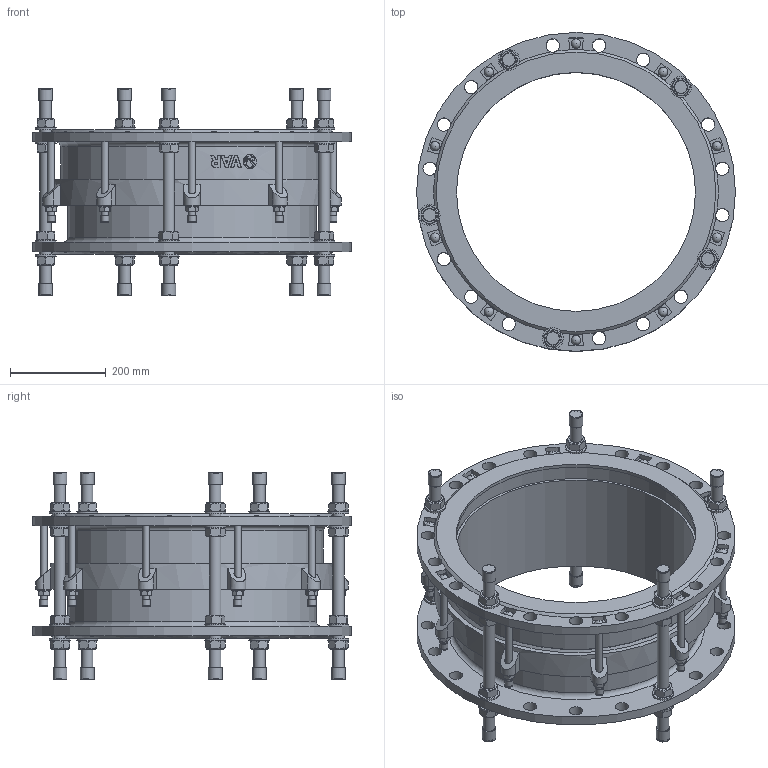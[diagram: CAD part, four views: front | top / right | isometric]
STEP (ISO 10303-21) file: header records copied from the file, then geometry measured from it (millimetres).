
FILE_DESCRIPTION(('STEP AP242'), '1');
FILE_NAME('Ìîíòàæíàÿ âñòàâêà', '', ('UNSPECIFIED'), ('UNSPECIFIED'), 'C3D Converter', 'C3D Toolkit', '');
FILE_SCHEMA(('AP242_MANAGED_MODEL_BASED_3D_ENGINEERING_MIM_LF { 1 0 10303 442 1 1 4 }'));
Length unit declared in the file: millimetre
Products named in the file (13): ШМ.М16.310
Assembly tree (99 placements, depth 2):
  (unnamed)
    (unnamed)
    (unnamed)
    (unnamed)
    (unnamed)  x20
    (unnamed)  x20
    ШМ.М16.310  x5
    (unnamed)  x10
    (unnamed)
    (unnamed)  x10
    (unnamed)  x10
    (unnamed)  x10
    (unnamed)  x10
Bounding box: 667 x 667 x 434.8 mm (x, y, z)
Volume: 15560160.5 mm3; surface area: 2794991 mm2
Topology: 99 solids, 99 shells, 1112 faces, 2520 edges, 1601 vertices
Faces by surface type: plane 656, cylinder 267, cone 146, torus 22, extrusion 11, sphere 10
Full cylindrical faces by diameter (mm): 14 x30, 15 x10, 16 x10, 16.8 x10, 24 x35, 25 x20, 28 x50, 28.8 x10, 30.201 x1, 44 x20, 500 x2, 520 x2, 530 x2, 550 x1, 570 x1, 572 x1, 592 x1, 667 x2
Entity records: 24567 total; most frequent: CARTESIAN_POINT 11772, DIRECTION 2122, ORIENTED_EDGE 1926, EDGE_CURVE 963, AXIS2_PLACEMENT_3D 846, VERTEX_POINT 696, EDGE_LOOP 591, FACE_BOUND 449
